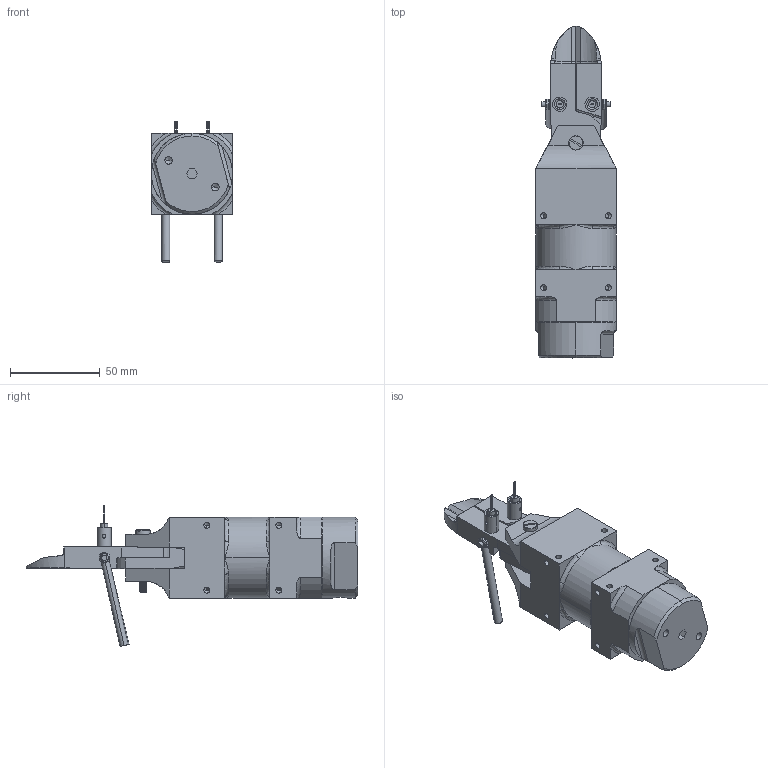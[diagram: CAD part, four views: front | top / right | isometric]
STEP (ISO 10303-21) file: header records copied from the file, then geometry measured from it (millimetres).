
FILE_DESCRIPTION (( 'STEP AP203' ), '1' );
FILE_NAME ('NS20-P-D1.STEP', '2024-09-14T07:02:11', ( 'Windows 蚚誧' ), ( 'Organization' ), 'SwSTEP 2.0', 'SolidWorks 2018', '' );
FILE_SCHEMA (( 'CONFIG_CONTROL_DESIGN' ));
Length unit declared in the file: millimetre
Products named in the file (1): NS20-P-D1
Bounding box: 45 x 184.5 x 78.27 mm (x, y, z)
Volume: 206608.8 mm3; surface area: 41178.7 mm2
Topology: 1 solids, 7 shells, 483 faces, 1274 edges, 802 vertices
Faces by surface type: cylinder 191, plane 152, cone 81, bspline 55, torus 4
Entity records: 22076 total; most frequent: CARTESIAN_POINT 10936, ORIENTED_EDGE 2492, DIRECTION 2076, EDGE_CURVE 1246, VERTEX_POINT 802, AXIS2_PLACEMENT_3D 762, LINE 552, VECTOR 552
